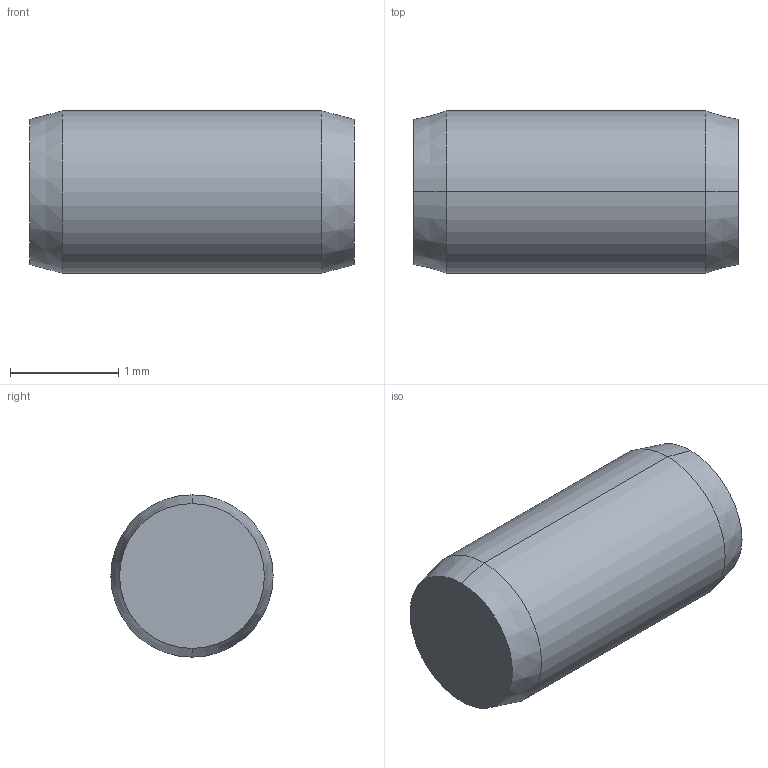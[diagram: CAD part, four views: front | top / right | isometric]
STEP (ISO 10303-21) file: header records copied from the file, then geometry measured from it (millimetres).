
FILE_DESCRIPTION (( 'STEP AP203' ), '1' );
FILE_NAME ('P1206.015-003 .step', '2017-06-14T07:51:47', ( 'User' ), ( '' ), 'SwSTEP 2.0', 'SolidWorks 2009', '' );
FILE_SCHEMA (( 'CONFIG_CONTROL_DESIGN' ));
Length unit declared in the file: millimetre
Products named in the file (1): P1206.015-003 
Bounding box: 3 x 1.5 x 1.5 mm (x, y, z)
Volume: 5.2 mm3; surface area: 16.9 mm2
Topology: 1 solids, 1 shells, 8 faces, 14 edges, 8 vertices
Faces by surface type: cone 4, cylinder 2, plane 2
Entity records: 271 total; most frequent: DIRECTION 40, CARTESIAN_POINT 31, ORIENTED_EDGE 28, AXIS2_PLACEMENT_3D 17, EDGE_CURVE 14, EDGE_LOOP 8, ADVANCED_FACE 8, FACE_OUTER_BOUND 8
